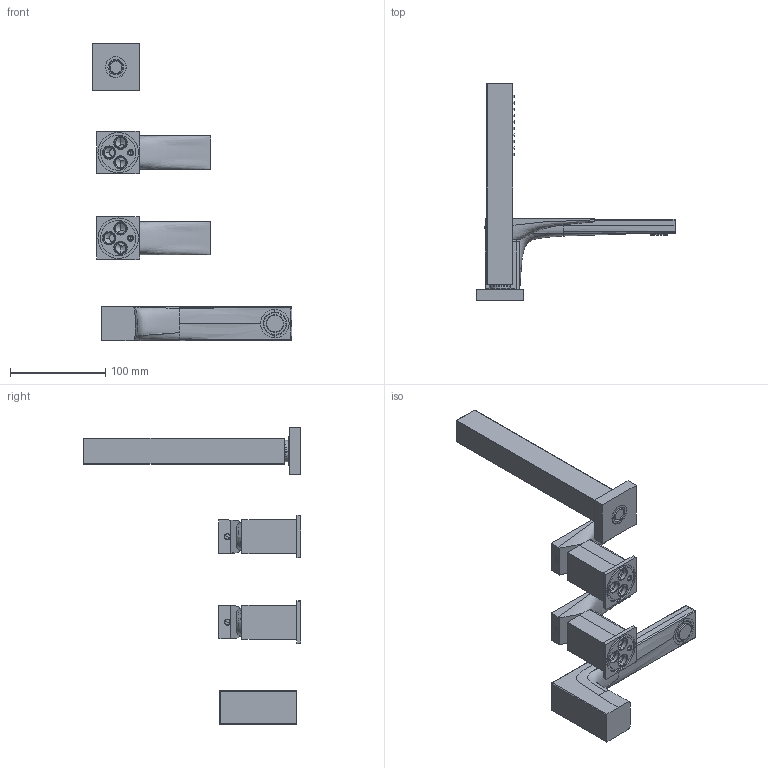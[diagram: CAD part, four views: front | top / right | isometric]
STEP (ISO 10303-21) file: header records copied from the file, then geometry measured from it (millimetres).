
FILE_DESCRIPTION((''),'2;1');
FILE_NAME('3D_SW0002','2012-10-24T',('ivanv'),(''),'PRO/ENGINEER BY PARAMETRIC TECHNOLOGY CORPORATION, 2011370','PRO/ENGINEER BY PARAMETRIC TECHNOLOGY CORPORATION, 2011370','');
FILE_SCHEMA(('CONFIG_CONTROL_DESIGN'));
Length unit declared in the file: millimetre
Products named in the file (1): 3D_SW0002
Bounding box: 210.4 x 229 x 312.9 mm (x, y, z)
Volume: 597808.3 mm3; surface area: 129941.4 mm2
Topology: 5 solids, 6 shells, 637 faces, 1542 edges, 956 vertices
Faces by surface type: plane 294, cylinder 142, cone 102, torus 58, bspline 27, sphere 12, extrusion 2
Entity records: 30512 total; most frequent: CARTESIAN_POINT 15839, ORIENTED_EDGE 3008, DIRECTION 2997, EDGE_CURVE 1504, AXIS2_PLACEMENT_3D 1067, VERTEX_POINT 956, VECTOR 863, LINE 861
